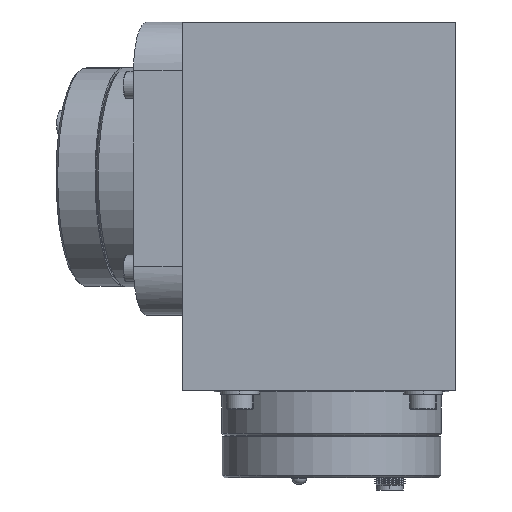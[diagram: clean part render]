
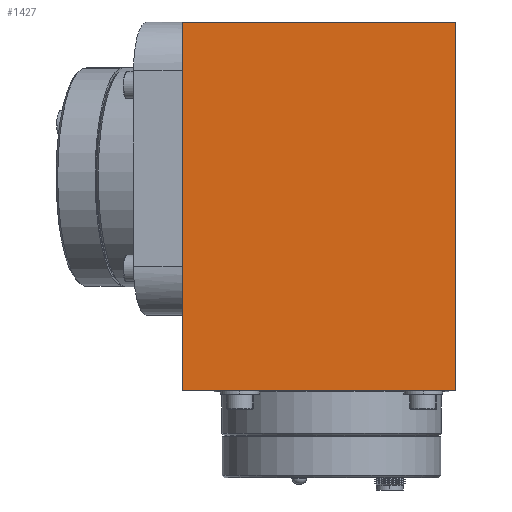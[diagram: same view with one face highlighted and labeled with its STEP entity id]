
A CAD part, left-side view. The second image highlights one B-rep face of the part: STEP entity #1427.
In plain terms, the highlighted planar face has unit normal (-1, 0, 0).
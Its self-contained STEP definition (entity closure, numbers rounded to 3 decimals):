
#1416 = EDGE_CURVE ( 'NONE', #2703, #2704, #6540, .T. ) ;
#1427 = ADVANCED_FACE ( 'NONE', ( #6602 ), #6603, .F. ) ;
#1494 = EDGE_CURVE ( 'NONE', #2710, #2704, #7007, .T. ) ;
#1502 = EDGE_CURVE ( 'NONE', #2712, #2710, #7024, .T. ) ;
#1505 = EDGE_CURVE ( 'NONE', #2703, #2712, #7036, .T. ) ;
#1893 = ORIENTED_EDGE ( 'NONE', *, *, #1416, .F. ) ;
#1894 = ORIENTED_EDGE ( 'NONE', *, *, #1505, .T. ) ;
#1895 = ORIENTED_EDGE ( 'NONE', *, *, #1502, .T. ) ;
#1896 = ORIENTED_EDGE ( 'NONE', *, *, #1494, .T. ) ;
#2703 = VERTEX_POINT ( 'NONE', #9780 ) ;
#2704 = VERTEX_POINT ( 'NONE', #9781 ) ;
#2710 = VERTEX_POINT ( 'NONE', #9787 ) ;
#2712 = VERTEX_POINT ( 'NONE', #9789 ) ;
#3248 = EDGE_LOOP ( 'NONE', ( #1893, #1894, #1895, #1896 ) ) ;
#4877 = VECTOR ( 'NONE', #6542, 1000. ) ;
#4905 = AXIS2_PLACEMENT_3D ( 'NONE', #6590, #6605, #6606 ) ;
#5046 = VECTOR ( 'NONE', #7009, 1000. ) ;
#5059 = VECTOR ( 'NONE', #7034, 1000. ) ;
#5062 = VECTOR ( 'NONE', #7042, 1000. ) ;
#6540 = LINE ( 'NONE', #6541, #4877 ) ;
#6541 = CARTESIAN_POINT ( 'NONE',  ( -31., 70., 31. ) ) ;
#6542 = DIRECTION ( 'NONE',  ( 0., -1., 0. ) ) ;
#6590 = CARTESIAN_POINT ( 'NONE',  ( -31., 70., -44.45 ) ) ;
#6602 = FACE_OUTER_BOUND ( 'NONE', #3248, .T. ) ;
#6603 = PLANE ( 'NONE',  #4905 ) ;
#6605 = DIRECTION ( 'NONE',  ( 1., 0., 0. ) ) ;
#6606 = DIRECTION ( 'NONE',  ( 0., 0., -1. ) ) ;
#7007 = LINE ( 'NONE', #7008, #5046 ) ;
#7008 = CARTESIAN_POINT ( 'NONE',  ( -31., 0., -44.45 ) ) ;
#7009 = DIRECTION ( 'NONE',  ( 0., 0., 1. ) ) ;
#7024 = LINE ( 'NONE', #7025, #5059 ) ;
#7025 = CARTESIAN_POINT ( 'NONE',  ( -31., 70., -44.45 ) ) ;
#7030 = CARTESIAN_POINT ( 'NONE',  ( -31., 56., 31. ) ) ;
#7034 = DIRECTION ( 'NONE',  ( 0., -1., 0. ) ) ;
#7036 = LINE ( 'NONE', #7030, #5062 ) ;
#7042 = DIRECTION ( 'NONE',  ( 0., 0., -1. ) ) ;
#9780 = CARTESIAN_POINT ( 'NONE',  ( -31., 56., 31. ) ) ;
#9781 = CARTESIAN_POINT ( 'NONE',  ( -31., 0., 31. ) ) ;
#9787 = CARTESIAN_POINT ( 'NONE',  ( -31., 0., -44.45 ) ) ;
#9789 = CARTESIAN_POINT ( 'NONE',  ( -31., 56., -44.45 ) ) ;
